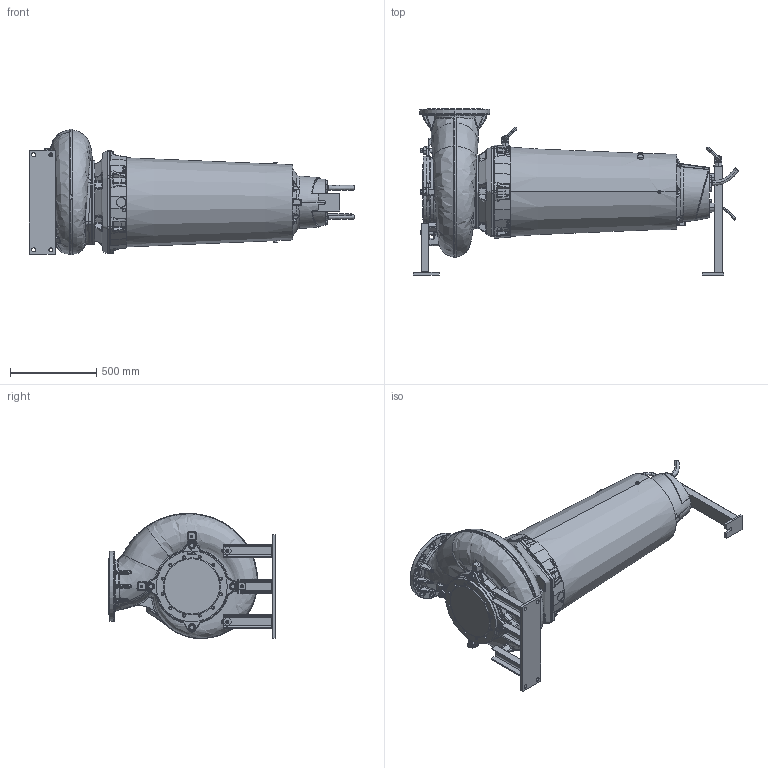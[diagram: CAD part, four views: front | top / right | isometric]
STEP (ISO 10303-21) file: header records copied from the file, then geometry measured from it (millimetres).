
FILE_DESCRIPTION (( 'STEP AP214' ), '1' );
FILE_NAME ('PE5_XFP255J-CB2_DRY HA_B_NG2.STEP', '2017-03-07T12:24:44', ( '' ), ( '' ), 'SwSTEP 2.0', 'SolidWorks 2017', '' );
FILE_SCHEMA (( 'AUTOMOTIVE_DESIGN' ));
Length unit declared in the file: millimetre
Products named in the file (1): PE5_XFP255J-CB2_DRY HA_B_NG2
Bounding box: 1882.58 x 962.06 x 724.46 mm (x, y, z)
Volume: 334370200.5 mm3; surface area: 4654341.8 mm2
Topology: 5 solids, 16 shells, 2831 faces, 7192 edges, 4371 vertices
Faces by surface type: bspline 821, plane 711, cylinder 678, cone 322, torus 262, sphere 37
Entity records: 191867 total; most frequent: CARTESIAN_POINT 99768, ORIENTED_EDGE 14208, DIRECTION 10808, EDGE_CURVE 7104, VERTEX_POINT 4367, AXIS2_PLACEMENT_3D 4336, EDGE_LOOP 2993, UNCERTAINTY_MEASURE_WITH_UNIT 2838
